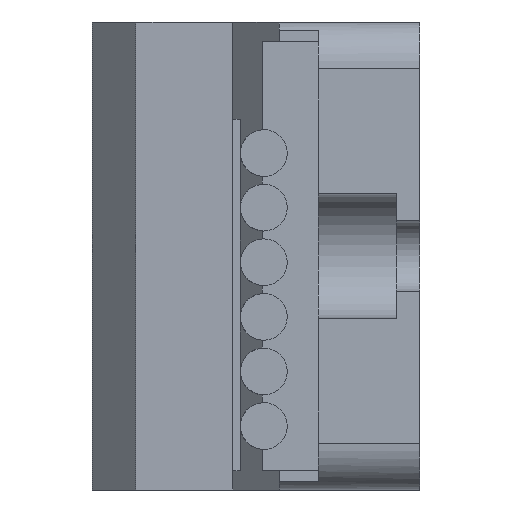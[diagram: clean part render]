
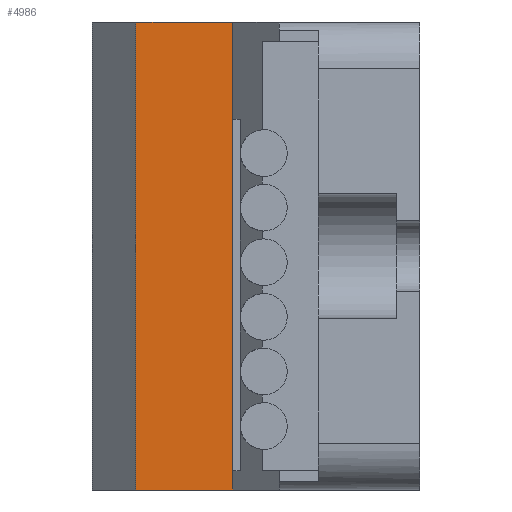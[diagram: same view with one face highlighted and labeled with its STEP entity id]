
A CAD part, left-side view. The second image highlights one B-rep face of the part: STEP entity #4986.
In plain terms, the highlighted planar face has unit normal (-1, 0.018, 0).
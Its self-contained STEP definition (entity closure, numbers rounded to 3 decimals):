
#1908=DIRECTION('',(0.,0.,-1.));
#1909=VECTOR('',#1908,30.);
#1910=CARTESIAN_POINT('',(-62.937,12.,15.));
#1911=LINE('',#1910,#1909);
#1915=DIRECTION('',(0.017,1.,0.));
#1916=VECTOR('',#1915,6.201);
#1917=CARTESIAN_POINT('',(-62.937,12.,-15.));
#1918=LINE('',#1917,#1916);
#1922=DIRECTION('',(-0.017,-1.,0.));
#1923=VECTOR('',#1922,6.201);
#1924=CARTESIAN_POINT('',(-62.829,18.2,15.));
#1925=LINE('',#1924,#1923);
#1929=DIRECTION('',(0.,0.,1.));
#1930=VECTOR('',#1929,30.);
#1931=CARTESIAN_POINT('',(-62.829,18.2,-15.));
#1932=LINE('',#1931,#1930);
#3324=CARTESIAN_POINT('',(-62.829,18.2,-15.));
#3326=VERTEX_POINT('',#3324);
#3332=CARTESIAN_POINT('',(-62.829,18.2,15.));
#3334=VERTEX_POINT('',#3332);
#3344=CARTESIAN_POINT('',(-62.937,12.,-15.));
#3346=VERTEX_POINT('',#3344);
#3352=CARTESIAN_POINT('',(-62.937,12.,15.));
#3354=VERTEX_POINT('',#3352);
#4974=CARTESIAN_POINT('',(-62.888,14.8,17.5));
#4975=DIRECTION('',(1.,-0.017,0.));
#4976=DIRECTION('',(0.017,1.,0.));
#4977=AXIS2_PLACEMENT_3D('',#4974,#4975,#4976);
#4978=PLANE('',#4977);
#4979=ORIENTED_EDGE('',*,*,#4890,.T.);
#4980=ORIENTED_EDGE('',*,*,#3877,.T.);
#4982=ORIENTED_EDGE('',*,*,#4981,.T.);
#4983=ORIENTED_EDGE('',*,*,#4859,.T.);
#4984=EDGE_LOOP('',(#4979,#4980,#4982,#4983));
#4985=FACE_OUTER_BOUND('',#4984,.F.);
#3877=EDGE_CURVE('',#3346,#3326,#1918,.T.);
#4859=EDGE_CURVE('',#3334,#3354,#1925,.T.);
#4890=EDGE_CURVE('',#3354,#3346,#1911,.T.);
#4981=EDGE_CURVE('',#3326,#3334,#1932,.T.);
#4986=ADVANCED_FACE('',(#4985),#4978,.F.);
